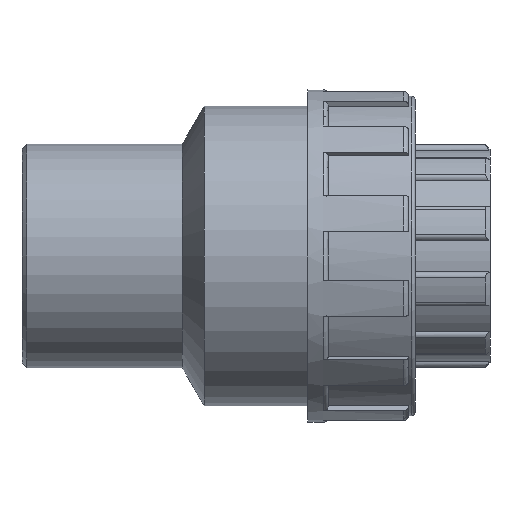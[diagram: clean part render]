
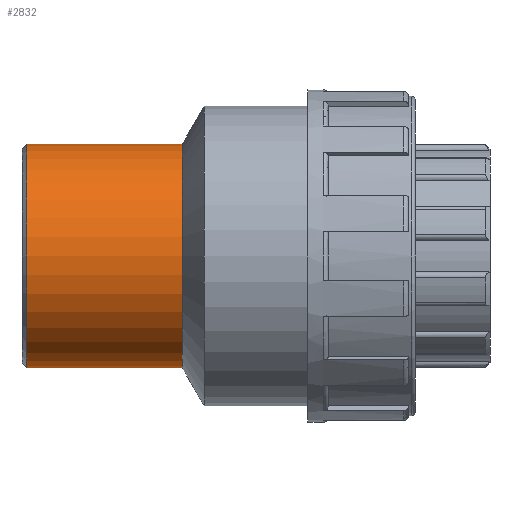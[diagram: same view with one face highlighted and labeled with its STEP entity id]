
A CAD part, front view. The second image highlights one B-rep face of the part: STEP entity #2832.
In plain terms, the highlighted cylindrical face has radius 39.659 mm (diameter 79.318 mm), a full revolution.
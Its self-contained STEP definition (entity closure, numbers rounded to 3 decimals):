
#31=FACE_BOUND('',#492,.T.);
#309=FACE_OUTER_BOUND('',#491,.T.);
#491=EDGE_LOOP('',(#2603));
#492=EDGE_LOOP('',(#2604));
#685=CIRCLE('',#3179,39.659);
#686=CIRCLE('',#3181,39.659);
#1358=VERTEX_POINT('',#5619);
#1359=VERTEX_POINT('',#5622);
#1776=EDGE_CURVE('',#1358,#1358,#685,.T.);
#1777=EDGE_CURVE('',#1359,#1359,#686,.T.);
#2603=ORIENTED_EDGE('',*,*,#1777,.F.);
#2604=ORIENTED_EDGE('',*,*,#1776,.F.);
#2670=CYLINDRICAL_SURFACE('',#3180,39.659);
#2832=ADVANCED_FACE('',(#309,#31),#2670,.T.);
#3179=AXIS2_PLACEMENT_3D('',#5620,#4034,#4035);
#3180=AXIS2_PLACEMENT_3D('',#5621,#4036,#4037);
#3181=AXIS2_PLACEMENT_3D('',#5623,#4038,#4039);
#4034=DIRECTION('center_axis',(-1.,0.,0.));
#4035=DIRECTION('ref_axis',(0.,-1.,0.));
#4036=DIRECTION('center_axis',(1.,0.,0.));
#4037=DIRECTION('ref_axis',(0.,1.,0.));
#4038=DIRECTION('center_axis',(1.,0.,0.));
#4039=DIRECTION('ref_axis',(0.,0.,-1.));
#5619=CARTESIAN_POINT('',(-81.3,39.659,0.));
#5620=CARTESIAN_POINT('Origin',(-81.3,0.,0.));
#5621=CARTESIAN_POINT('Origin',(-54.58,0.,0.));
#5622=CARTESIAN_POINT('',(-26.16,39.659,0.));
#5623=CARTESIAN_POINT('Origin',(-26.16,0.,0.));
